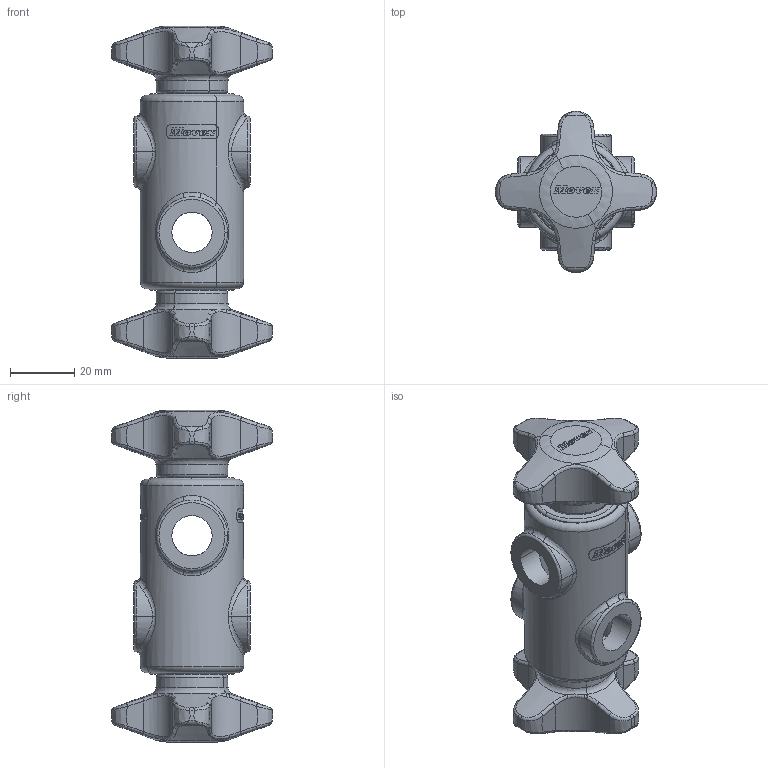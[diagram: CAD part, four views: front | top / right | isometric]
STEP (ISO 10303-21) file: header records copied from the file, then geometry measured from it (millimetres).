
FILE_DESCRIPTION(('CATIA V5 STEP Exchange'),'2;1');
FILE_NAME('X:\CODICI MOVEX\3D per clienti\Ronchi Mario\17-01-2013\P39101_01.stp','2013-01-17T16:33:51+00:00',('none'),('none'),'CATIA Version 5 Release 21 SP 1 (IN-10)','CATIA V5 STEP AP203','none');
FILE_SCHEMA(('CONFIG_CONTROL_DESIGN'));
Products named in the file (1): Product1
Assembly tree (9 placements, depth 2):
  Product1
    #58
    #35922  x2
    #36154  x2
    #57412  x2
    #57857  x2
Bounding box: 49.98 x 49.98 x 103 mm (x, y, z)
Volume: 59254.9 mm3; surface area: 30138.2 mm2
Topology: 9 solids, 9 shells, 2167 faces, 6131 edges, 4002 vertices
Faces by surface type: plane 1790, bspline 164, cylinder 101, cone 48, torus 44, revolution 20
Entity records: 58362 total; most frequent: CARTESIAN_POINT 22191, ORIENTED_EDGE 8942, DIRECTION 5160, EDGE_CURVE 4471, VERTEX_POINT 2937, VECTOR 2171, LINE 2171, B_SPLINE_CURVE_WITH_KNOTS 2011
